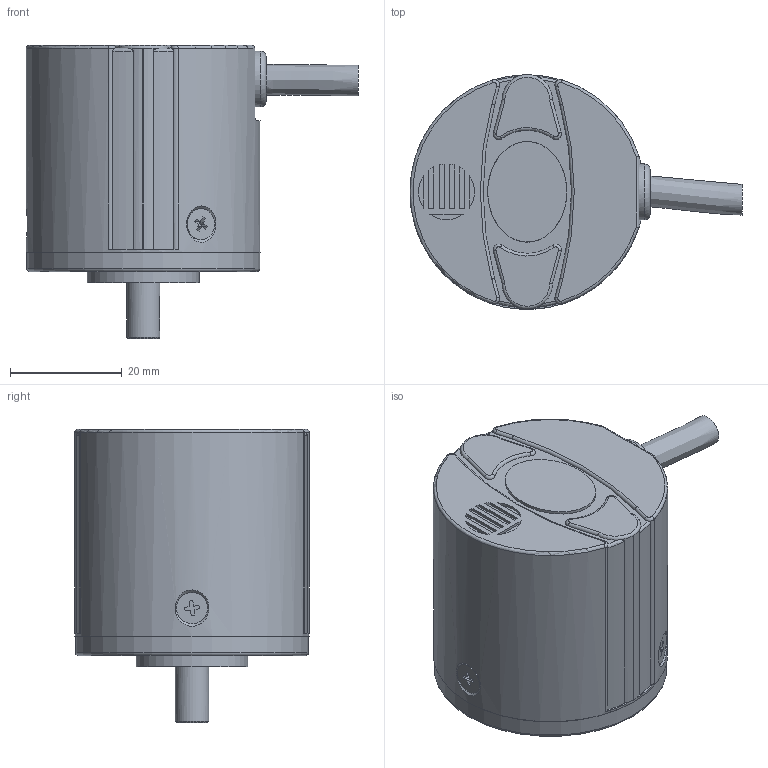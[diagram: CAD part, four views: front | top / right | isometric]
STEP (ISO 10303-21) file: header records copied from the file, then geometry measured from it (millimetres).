
FILE_DESCRIPTION( ( 'Unknown' ), '1' );
FILE_NAME( 'C:/Users/malfermoa/Desktop/EL40A_uscita PR.stp', 'Unknown', ( 'Unknown' ), ( 'Unknown' ), 'PSStep 15.0.49', 'Unknown', ' ' );
FILE_SCHEMA( ( 'AUTOMOTIVE_DESIGN { 1 0 10303 214 1 1 1 1 }' ) );
Length unit declared in the file: millimetre
Products named in the file (12): Assem1; 23220001B1_0; 41320006E1; 23290021 - 626zz 6x19x6
Assembly tree (11 placements, depth 2):
  Assem1
    23220001B1_0
    41320006E1
    23290021 - 626zz 6x19x6
    23290021 - 626zz 6x19x6
    23290021 - 626zz 6x19x6
    23290021 - 626zz 6x19x6
    23290021 - 626zz 6x19x6
    23290021 - 626zz 6x19x6
    23290021 - 626zz 6x19x6
    23290021 - 626zz 6x19x6
    23290021 - 626zz 6x19x6
Bounding box: 59.47 x 42 x 52.5 mm (x, y, z)
Volume: 24343.4 mm3; surface area: 22207.1 mm2
Topology: 11 solids, 15 shells, 329 faces, 830 edges, 542 vertices
Faces by surface type: plane 131, cylinder 110, torus 32, cone 31, bspline 16, sphere 8, extrusion 1
Full cylindrical faces by diameter (mm): 2.459 x9, 2.5 x3, 5.6 x3, 6 x9, 7 x1, 7.1 x1, 7.5 x1, 8.5 x2, 8.997 x1, 10 x1, 16 x1, 16.5 x2, 17.9 x1, 19 x1, 20 x1, 24 x2, 36 x1, 38.8 x2, 39 x1, 41.7 x1, 42 x1
Entity records: 19523 total; most frequent: CARTESIAN_POINT 9780, DIRECTION 1475, ORIENTED_EDGE 1280, EDGE_CURVE 640, AXIS2_PLACEMENT_3D 605, VERTEX_POINT 484, EDGE_LOOP 441, FACE_OUTER_BOUND 365
